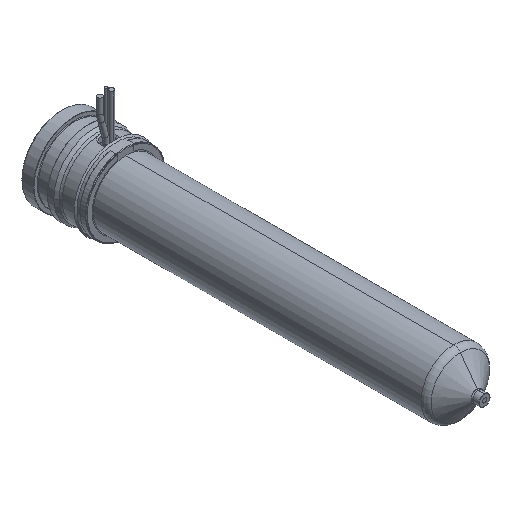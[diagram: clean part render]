
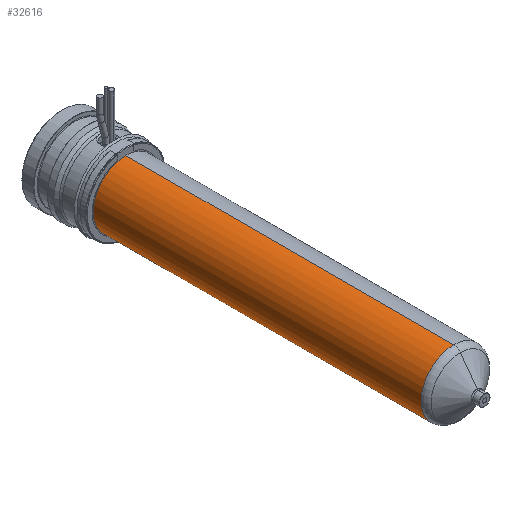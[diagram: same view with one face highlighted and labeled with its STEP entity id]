
A CAD part, isometric view. The second image highlights one B-rep face of the part: STEP entity #32616.
In plain terms, the highlighted cylindrical face has radius 12 mm (diameter 24 mm), a partial arc.
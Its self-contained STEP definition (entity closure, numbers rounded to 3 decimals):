
#32261=CARTESIAN_POINT('',(0.,-24.,0.));
#32262=DIRECTION('',(0.,1.,0.));
#32263=DIRECTION('',(0.,0.,-1.));
#32264=AXIS2_PLACEMENT_3D('',#32261,#32262,#32263);
#32269=DIRECTION('',(0.,1.,0.));
#32270=VECTOR('',#32269,120.671);
#32271=CARTESIAN_POINT('',(0.,-144.671,12.));
#32272=LINE('',#32271,#32270);
#32284=DIRECTION('',(0.,1.,0.));
#32285=VECTOR('',#32284,120.671);
#32286=CARTESIAN_POINT('',(0.,-144.671,-12.));
#32287=LINE('',#32286,#32285);
#32315=CARTESIAN_POINT('',(0.,-144.671,0.));
#32316=DIRECTION('',(0.,-1.,0.));
#32317=DIRECTION('',(0.,0.,1.));
#32318=AXIS2_PLACEMENT_3D('',#32315,#32316,#32317);
#32505=CARTESIAN_POINT('',(0.,-144.671,12.));
#32506=CARTESIAN_POINT('',(0.,-24.,12.));
#32507=VERTEX_POINT('',#32505);
#32508=VERTEX_POINT('',#32506);
#32513=CARTESIAN_POINT('',(0.,-144.671,-12.));
#32514=CARTESIAN_POINT('',(0.,-24.,-12.));
#32515=VERTEX_POINT('',#32513);
#32516=VERTEX_POINT('',#32514);
#32602=CARTESIAN_POINT('',(0.,-13.2,0.));
#32603=DIRECTION('',(0.,-1.,0.));
#32604=DIRECTION('',(0.,0.,1.));
#32605=AXIS2_PLACEMENT_3D('',#32602,#32603,#32604);
#32606=CYLINDRICAL_SURFACE('',#32605,12.);
#32608=ORIENTED_EDGE('',*,*,#32607,.F.);
#32610=ORIENTED_EDGE('',*,*,#32609,.T.);
#32612=ORIENTED_EDGE('',*,*,#32611,.T.);
#32613=ORIENTED_EDGE('',*,*,#32595,.T.);
#32614=EDGE_LOOP('',(#32608,#32610,#32612,#32613));
#32615=FACE_OUTER_BOUND('',#32614,.F.);
#32616=ADVANCED_FACE('',(#32615),#32606,.T.);
#32265=CIRCLE('',#32264,12.);
#32319=CIRCLE('',#32318,12.);
#32595=EDGE_CURVE('',#32516,#32508,#32265,.T.);
#32607=EDGE_CURVE('',#32507,#32508,#32272,.T.);
#32609=EDGE_CURVE('',#32507,#32515,#32319,.T.);
#32611=EDGE_CURVE('',#32515,#32516,#32287,.T.);
